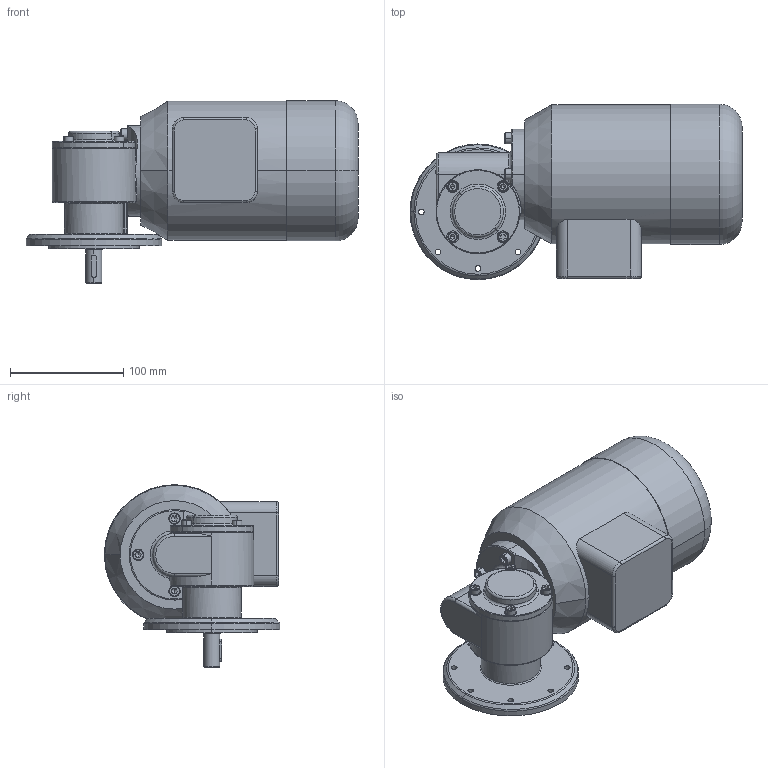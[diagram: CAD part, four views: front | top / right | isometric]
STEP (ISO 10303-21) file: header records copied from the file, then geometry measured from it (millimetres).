
FILE_DESCRIPTION (( 'STEP AP214' ), '1' );
FILE_NAME ('SN3F_120W_180W_250W_A.STEP', '2021-03-16T08:02:08', ( '' ), ( '' ), 'SwSTEP 2.0', 'SolidWorks 2019', '' );
FILE_SCHEMA (( 'AUTOMOTIVE_DESIGN' ));
Length unit declared in the file: millimetre
Products named in the file (1): SN3F_120W_180W_250W_A
Bounding box: 293.5 x 155 x 161.4 mm (x, y, z)
Surface area: 162410.6 mm2 (no closed solid volume)
Topology: 0 solids, 16 shells, 259 faces, 712 edges, 446 vertices
Faces by surface type: cylinder 92, plane 92, cone 40, torus 34, sphere 1
Entity records: 11411 total; most frequent: CARTESIAN_POINT 1883, DIRECTION 1517, ORIENTED_EDGE 1233, EDGE_CURVE 699, AXIS2_PLACEMENT_3D 596, VERTEX_POINT 446, CIRCLE 336, LINE 325
